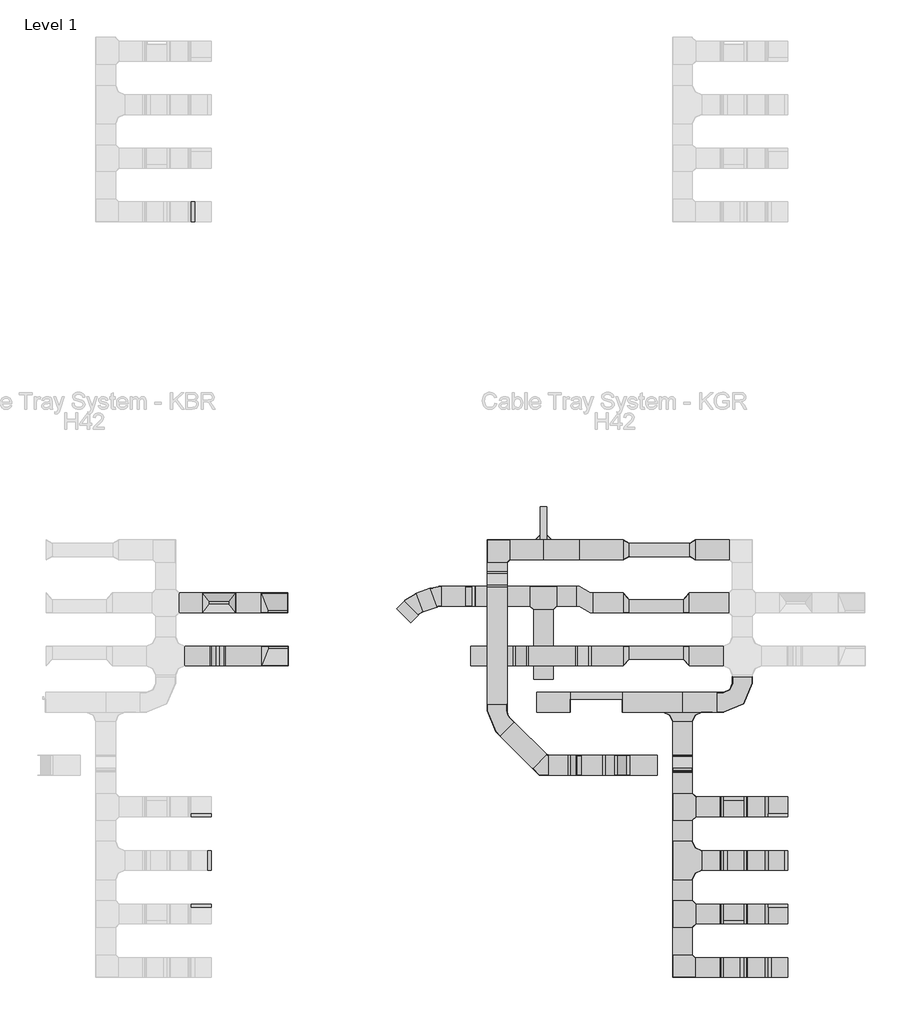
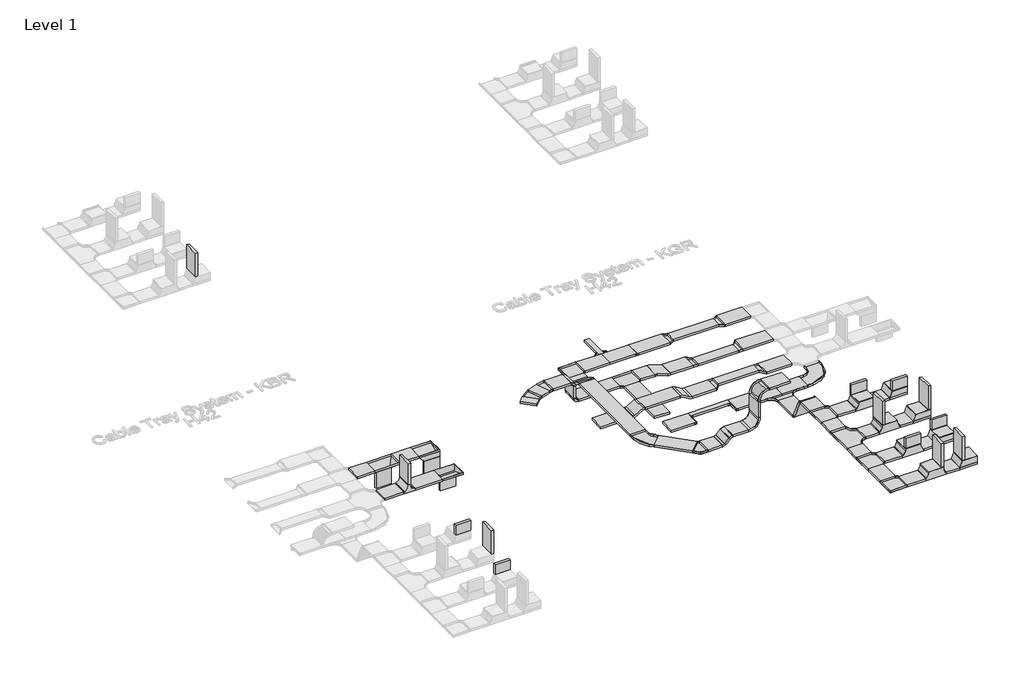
# One storey, part 5 of 106: 67 cable carrier segments, 47 cable carrier fittings.
"""IFC4 building model written with IfcOpenShell, lengths in millimetres."""

from ifc_helpers import new_model, si_unit, frame, origin, place, context, project, spatial, polyline, outline, extrude, transform, mapped, element, save
from components import cable_carrier_fitting_2f03b0e3, cable_carrier_fitting_e5c8e40d, cable_carrier_fitting_89415aa4, cable_carrier_fitting_efa56db2, cable_carrier_fitting_fd90c8b5, cable_carrier_fitting_9cc64f74, cable_carrier_fitting_881c8fdb, cable_carrier_fitting_302010ec, cable_carrier_fitting_bee8c25e, cable_carrier_fitting_2b67af39, cable_carrier_fitting_400b97e6, cable_carrier_fitting_736d034b, cable_carrier_fitting_af289c29, cable_carrier_fitting_3ff81d9b, cable_carrier_fitting_7d5806c9, cable_carrier_fitting_0ce080ce, cable_carrier_fitting_1724e2f5, cable_carrier_fitting_0e05e12f, cable_carrier_fitting_aa4403b1, cable_carrier_fitting_df0feb0d, cable_carrier_fitting_b8cc1d00, cable_carrier_fitting_19ef2403, cable_carrier_fitting_0fee3a18, cable_carrier_fitting_e93d4d17, cable_carrier_fitting_f62230c1, cable_carrier_fitting_68112528, cable_carrier_fitting_94ef316f, cable_carrier_fitting_d4aa8912, cable_carrier_fitting_70c157f5, cable_carrier_fitting_f138ef00, cable_carrier_fitting_b296faec, cable_carrier_fitting_717dd42d, cable_carrier_fitting_55953e98, cable_carrier_fitting_c1d9b0e5, rkj200_h42_1d64d163, rkj200_h42_0f858a6a

model = new_model("IFC4")

# Units and contexts
model_context = context("Model", 3, world=origin())
ifc_project = project(units=[si_unit("LENGTHUNIT", "METRE", prefix="MILLI")], contexts=[model_context])

# Site, building, storey
site = spatial("IfcSite", under=ifc_project)
building = spatial("IfcBuilding", under=site)
storey = spatial("IfcBuildingStorey", under=building, Name="Level 1", Elevation=0.0)

# Cable carrier fittings
placement = place(None, origin())
cable_carrier_fitting_shape = cable_carrier_fitting_2f03b0e3(model_context)
element("IfcCableCarrierFitting", 1, ObjectType="BAKS_Vertical tee symetrical : TRSNJ_H42", at=placement, inside=storey, context=model_context, shape_type="MappedRepresentation", body=[
    mapped(cable_carrier_fitting_shape, transform((-15558.1670538, 56380.8714214, 0.0), x_axis=(1.0, 0.0, 0.0), y_axis=(0.0, -1.0, 0.0), z_axis=(0.0, 0.0, -1.0))),
])
cable_carrier_fitting_2_shape = cable_carrier_fitting_e5c8e40d(model_context)
element("IfcCableCarrierFitting", 2, ObjectType="BAKS_SUB_Corner connector : LRJ_H42", at=placement, inside=storey, context=model_context, shape_type="MappedRepresentation", body=[
    mapped(cable_carrier_fitting_2_shape, transform((-10693.6670538, 58130.8714214, -21.0), x_axis=(-1.0, 0.0, 0.0), y_axis=(0.0, -1.0, 0.0), z_axis=(0.0, 0.0, 1.0))),
])
element("IfcCableCarrierFitting", 3, ObjectType="BAKS_SUB_Corner connector : LRJ_H42", at=placement, inside=storey, context=model_context, shape_type="MappedRepresentation", body=[
    mapped(cable_carrier_fitting_2_shape, transform((-10593.6670538, 58130.8714214, -21.0), x_axis=(0.0, 1.0, 0.0), y_axis=(-1.0, 0.0, 0.0), z_axis=(0.0, 0.0, 1.0))),
])
cable_carrier_fitting_3_shape = cable_carrier_fitting_89415aa4(model_context)
element("IfcCableCarrierFitting", 4, ObjectType="BAKS_Horizontal bend : KKBL/KKMBL_H42", at=placement, inside=storey, context=model_context, shape_type="MappedRepresentation", body=[
    mapped(cable_carrier_fitting_3_shape, transform((-10643.6670538, 54731.3714214, 100.0), x_axis=(0.7071067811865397, -0.7071067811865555, 0.0), y_axis=(0.7071067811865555, 0.7071067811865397, 0.0), z_axis=(0.0, 0.0, 1.0))),
])
cable_carrier_fitting_4_shape = cable_carrier_fitting_efa56db2(model_context)
element("IfcCableCarrierFitting", 5, ObjectType="BAKS_Horizontal bypass : OPZNJ_H42", at=placement, inside=storey, context=model_context, shape_type="MappedRepresentation", body=[
    mapped(cable_carrier_fitting_4_shape, transform((-10022.1670538, 57180.8714214, 0.0), x_axis=(-1.0, 0.0, 0.0), y_axis=(0.0, 1.0, 0.0), z_axis=(0.0, 0.0, -1.0))),
])
cable_carrier_fitting_5_shape = cable_carrier_fitting_fd90c8b5(model_context)
element("IfcCableCarrierFitting", 6, ObjectType="BAKS_Horizontal tee radius : TKPJ_H42", at=placement, inside=storey, context=model_context, shape_type="MappedRepresentation", body=[
    mapped(cable_carrier_fitting_5_shape, transform((-8546.1670538, 53296.5802898, 432.5277378), x_axis=(0.0, 1.0, 0.0), y_axis=(-1.0, 0.0, 0.0), z_axis=(0.0, 0.0, 1.0))),
])
cable_carrier_fitting_6_shape = cable_carrier_fitting_9cc64f74(model_context)
element("IfcCableCarrierFitting", 7, ObjectType="BAKS_Horizontal tee : TKL_H42", at=placement, inside=storey, context=model_context, shape_type="MappedRepresentation", body=[
    mapped(cable_carrier_fitting_6_shape, transform((-10643.6670538, 57280.8714214, 0.0), x_axis=(1.0, 0.0, 0.0), y_axis=(0.0, 1.0, 0.0), z_axis=(0.0, 0.0, 1.0))),
])
element("IfcCableCarrierFitting", 8, ObjectType="BAKS_Horizontal tee : TKL_H42", at=placement, inside=storey, context=model_context, shape_type="MappedRepresentation", body=[
    mapped(cable_carrier_fitting_6_shape, transform((-8546.1670538, 52489.2974728, 432.5277378), x_axis=(0.0, 1.0, 0.0), y_axis=(-1.0, 0.0, 0.0), z_axis=(0.0, 0.0, 1.0))),
])
element("IfcCableCarrierFitting", 9, ObjectType="BAKS_Horizontal tee : TKL_H42", at=placement, inside=storey, context=model_context, shape_type="MappedRepresentation", body=[
    mapped(cable_carrier_fitting_6_shape, transform((-8546.1670538, 54103.8631068, 432.5277378), x_axis=(0.0, 1.0, 0.0), y_axis=(-1.0, 0.0, 0.0), z_axis=(0.0, 0.0, 1.0))),
])
cable_carrier_fitting_7_shape = cable_carrier_fitting_881c8fdb(model_context)
element("IfcCableCarrierFitting", 10, ObjectType="BAKS_Universal elbow : KRUMJ_H42", at=placement, inside=storey, context=model_context, shape_type="MappedRepresentation", body=[
    mapped(cable_carrier_fitting_7_shape, transform((-7306.1670538, 53296.5802898, 432.5277378), x_axis=(1.0, 0.0, 0.0), y_axis=(0.0, 1.0, 0.0), z_axis=(0.0, 0.0, 1.0))),
])
cable_carrier_fitting_8_shape = cable_carrier_fitting_302010ec(model_context)
element("IfcCableCarrierFitting", 11, ObjectType="BAKS_Universal tee : TRUNJ_H42", at=placement, inside=storey, context=model_context, shape_type="MappedRepresentation", body=[
    mapped(cable_carrier_fitting_8_shape, transform((-7773.5199976, 53296.5802898, 432.5277378), x_axis=(-1.0, 0.0, 0.0), y_axis=(0.0, -1.0, 0.0), z_axis=(0.0, 0.0, 1.0))),
])
cable_carrier_fitting_9_shape = cable_carrier_fitting_bee8c25e(model_context)
element("IfcCableCarrierFitting", 12, ObjectType="BAKS_Vertical bend adjustable : LLL/LLJ_H42", at=placement, inside=storey, context=model_context, shape_type="MappedRepresentation", body=[
    mapped(cable_carrier_fitting_9_shape, transform((-9546.2659001, 54731.3714214, 237.4011537), x_axis=(1.0, 0.0, 0.0), y_axis=(0.0, 0.0, 1.0), z_axis=(0.0, -1.0, 0.0))),
])
element("IfcCableCarrierFitting", 13, ObjectType="BAKS_Vertical bend adjustable : LLL/LLJ_H42", at=placement, inside=storey, context=model_context, shape_type="MappedRepresentation", body=[
    mapped(cable_carrier_fitting_9_shape, transform((-9546.2659001, 54731.3714214, 977.4011537), x_axis=(0.0, 0.0, 1.0), y_axis=(1.0, 0.0, 0.0), z_axis=(0.0, 1.0, 0.0))),
])
cable_carrier_fitting_10_shape = cable_carrier_fitting_2b67af39(model_context)
element("IfcCableCarrierFitting", 14, ObjectType="BAKS_Vertical bypass : OPNNJ_H42", at=placement, inside=storey, context=model_context, shape_type="MappedRepresentation", body=[
    mapped(cable_carrier_fitting_10_shape, transform((-10986.6670538, 56380.8714214, 100.0), x_axis=(-1.0, 0.0, 0.0), y_axis=(0.0, -1.0, 0.0), z_axis=(0.0, 0.0, 1.0))),
])
cable_carrier_fitting_11_shape = cable_carrier_fitting_400b97e6(model_context)
element("IfcCableCarrierFitting", 15, ObjectType="BAKS_Vertical elbow left : KRLBJ_H42", at=placement, inside=storey, context=model_context, shape_type="MappedRepresentation", body=[
    mapped(cable_carrier_fitting_11_shape, transform((-14908.1670538, 57180.8714214, 0.0), x_axis=(1.0, 0.0, 0.0), y_axis=(0.0, 1.0, 0.0), z_axis=(0.0, 0.0, 1.0))),
])
cable_carrier_fitting_12_shape = cable_carrier_fitting_736d034b(model_context)
element("IfcCableCarrierFitting", 16, ObjectType="BAKS_Vertical tee lengthwise : TRBJ_H42", at=placement, inside=storey, context=model_context, shape_type="MappedRepresentation", body=[
    mapped(cable_carrier_fitting_12_shape, transform((-15538.1670538, 57180.8714214, 0.0), x_axis=(-1.0, 0.0, 0.0), y_axis=(0.0, -1.0, 0.0), z_axis=(0.0, 0.0, 1.0))),
])
cable_carrier_fitting_13_shape = cable_carrier_fitting_af289c29(model_context)
element("IfcCableCarrierFitting", 17, ObjectType="BAKS_Articulated_connector : LGJ_H42", at=placement, inside=storey, context=model_context, shape_type="MappedRepresentation", body=[
    mapped(cable_carrier_fitting_13_shape, transform((-8546.1670538, 54858.7056523, 0.0), x_axis=(0.0, -1.0, 0.0), y_axis=(0.0, 0.0, 1.0), z_axis=(-1.0, 0.0, 0.0))),
])
element("IfcCableCarrierFitting", 18, ObjectType="BAKS_Articulated_connector : LGJ_H42", at=placement, inside=storey, context=model_context, shape_type="MappedRepresentation", body=[
    mapped(cable_carrier_fitting_13_shape, transform((-8546.1670538, 54657.0146558, 432.5277378), x_axis=(0.0, -0.42261826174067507, 0.9063077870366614), y_axis=(0.0, -0.9063077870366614, -0.42261826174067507), z_axis=(1.0, 0.0, 0.0))),
])
cable_carrier_fitting_14_shape = cable_carrier_fitting_3ff81d9b(model_context)
element("IfcCableCarrierFitting", 19, ObjectType="BAKS_Universal tee : TRUNJ_H42", at=placement, inside=storey, context=model_context, shape_type="MappedRepresentation", body=[
    mapped(cable_carrier_fitting_14_shape, transform((-7773.5199976, 54103.8631068, 432.5277378), x_axis=(-1.0, 0.0, 0.0), y_axis=(0.0, -1.0, 0.0), z_axis=(0.0, 0.0, 1.0))),
])
cable_carrier_fitting_15_shape = cable_carrier_fitting_7d5806c9(model_context)
element("IfcCableCarrierFitting", 20, ObjectType="BAKS_Universal tee : TRUNJ_H42", at=placement, inside=storey, context=model_context, shape_type="MappedRepresentation", body=[
    mapped(cable_carrier_fitting_15_shape, transform((-7773.5199976, 52489.2974728, 432.5277378), x_axis=(-1.0, 0.0, 0.0), y_axis=(0.0, -1.0, 0.0), z_axis=(0.0, 0.0, 1.0))),
])
cable_carrier_fitting_16_shape = cable_carrier_fitting_0ce080ce(model_context)
element("IfcCableCarrierFitting", 21, ObjectType="BAKS_Universal tee : TRUNJ_H42", at=placement, inside=storey, context=model_context, shape_type="MappedRepresentation", body=[
    mapped(cable_carrier_fitting_16_shape, transform((-7773.5199976, 51682.0146558, 432.5277378), x_axis=(-1.0, 0.0, 0.0), y_axis=(0.0, -1.0, 0.0), z_axis=(0.0, 0.0, 1.0))),
])
cable_carrier_fitting_17_shape = cable_carrier_fitting_1724e2f5(model_context)
element("IfcCableCarrierFitting", 22, ObjectType="BAKS_Vertical bypass : OPNNJ_H42", at=placement, inside=storey, context=model_context, shape_type="MappedRepresentation", body=[
    mapped(cable_carrier_fitting_17_shape, transform((-10043.6670538, 56380.8714214, 0.0), x_axis=(-1.0, 0.0, 0.0), y_axis=(0.0, -1.0, 0.0), z_axis=(0.0, 0.0, 1.0))),
])
element("IfcCableCarrierFitting", 23, ObjectType="BAKS_Vertical bypass : OPNNJ_H42", at=placement, inside=storey, context=model_context, shape_type="MappedRepresentation", body=[
    mapped(cable_carrier_fitting_17_shape, transform((-11343.1670538, 57539.3714214, 0.0), x_axis=(0.0, -1.0, 0.0), y_axis=(1.0, 0.0, 0.0), z_axis=(0.0, 0.0, 1.0))),
])
cable_carrier_fitting_18_shape = cable_carrier_fitting_0e05e12f(model_context)
element("IfcCableCarrierFitting", 24, ObjectType="BAKS_Universal elbow : KRUMJ_H42", at=placement, inside=storey, context=model_context, shape_type="MappedRepresentation", body=[
    mapped(cable_carrier_fitting_18_shape, transform((-7306.1670538, 54103.8631068, 432.5277378), x_axis=(1.0, 0.0, 0.0), y_axis=(0.0, 1.0, 0.0), z_axis=(0.0, 0.0, 1.0))),
])
cable_carrier_fitting_19_shape = cable_carrier_fitting_aa4403b1(model_context)
element("IfcCableCarrierFitting", 25, ObjectType="BAKS_Universal elbow : KRUMJ_H42", at=placement, inside=storey, context=model_context, shape_type="MappedRepresentation", body=[
    mapped(cable_carrier_fitting_19_shape, transform((-7306.1670538, 52489.2974728, 432.5277378), x_axis=(1.0, 0.0, 0.0), y_axis=(0.0, 1.0, 0.0), z_axis=(0.0, 0.0, 1.0))),
])
cable_carrier_fitting_20_shape = cable_carrier_fitting_df0feb0d(model_context)
element("IfcCableCarrierFitting", 26, ObjectType="BAKS_Universal elbow : KRUMJ_H42", at=placement, inside=storey, context=model_context, shape_type="MappedRepresentation", body=[
    mapped(cable_carrier_fitting_20_shape, transform((-7306.1670538, 51682.0146558, 432.5277378), x_axis=(1.0, 0.0, 0.0), y_axis=(0.0, 1.0, 0.0), z_axis=(0.0, 0.0, 1.0))),
])
cable_carrier_fitting_21_shape = cable_carrier_fitting_b8cc1d00(model_context)
element("IfcCableCarrierFitting", 27, ObjectType="BAKS_Vertical elbow right : KRPJ_H42", at=placement, inside=storey, context=model_context, shape_type="MappedRepresentation", body=[
    mapped(cable_carrier_fitting_21_shape, transform((-14902.1670538, 56380.8714214, 0.0), x_axis=(1.0, 0.0, 0.0), y_axis=(0.0, 1.0, 0.0), z_axis=(0.0, 0.0, 1.0))),
])
cable_carrier_fitting_22_shape = cable_carrier_fitting_19ef2403(model_context)
element("IfcCableCarrierFitting", 28, ObjectType="BAKS_Adjustable bend : KKRPJ_H42", at=placement, inside=storey, context=model_context, shape_type="MappedRepresentation", body=[
    mapped(cable_carrier_fitting_22_shape, transform((-12581.9563973, 57157.7441698, 400.0), x_axis=(-0.9396926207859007, -0.34202014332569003, 0.0), y_axis=(0.34202014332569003, -0.9396926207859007, 0.0), z_axis=(0.0, 0.0, 1.0))),
])
cable_carrier_fitting_23_shape = cable_carrier_fitting_0fee3a18(model_context)
element("IfcCableCarrierFitting", 29, ObjectType="BAKS_Adjustable bend : KKRPJ_H42", at=placement, inside=storey, context=model_context, shape_type="MappedRepresentation", body=[
    mapped(cable_carrier_fitting_23_shape, transform((-12243.6670538, 57280.8714214, 400.0), x_axis=(-1.0, 0.0, 0.0), y_axis=(0.0, -1.0, 0.0), z_axis=(0.0, 0.0, 1.0))),
])
cable_carrier_fitting_24_shape = cable_carrier_fitting_e93d4d17(model_context)
element("IfcCableCarrierFitting", 30, ObjectType="BAKS_Plate connector : LPMU_H42", at=placement, inside=storey, context=model_context, shape_type="MappedRepresentation", body=[
    mapped(cable_carrier_fitting_24_shape, transform((-10103.1670538, 57980.8714214, 0.0), x_axis=(1.0, 0.0, 0.0), y_axis=(0.0, 1.0, 0.0), z_axis=(0.0, 0.0, 1.0))),
])
cable_carrier_fitting_25_shape = cable_carrier_fitting_f62230c1(model_context)
element("IfcCableCarrierFitting", 31, ObjectType="BAKS_Vertical bend LU : LLJ_H42", at=placement, inside=storey, context=model_context, shape_type="MappedRepresentation", body=[
    mapped(cable_carrier_fitting_25_shape, transform((-11743.6670538, 57280.8714214, 0.0), x_axis=(-1.0, 0.0, 0.0), y_axis=(0.0, 0.0, 1.0), z_axis=(0.0, 1.0, 0.0))),
])
element("IfcCableCarrierFitting", 32, ObjectType="BAKS_Vertical bend LU : LLJ_H42", at=placement, inside=storey, context=model_context, shape_type="MappedRepresentation", body=[
    mapped(cable_carrier_fitting_25_shape, transform((-11743.6670538, 57280.8714214, 400.0), x_axis=(0.0, 0.0, 1.0), y_axis=(-1.0, 0.0, 0.0), z_axis=(0.0, -1.0, 0.0))),
])
cable_carrier_fitting_26_shape = cable_carrier_fitting_68112528(model_context)
element("IfcCableCarrierFitting", 33, ObjectType="BAKS_Vertical bend LU : LLJ_H42", at=placement, inside=storey, context=model_context, shape_type="MappedRepresentation", body=[
    mapped(cable_carrier_fitting_26_shape, transform((-10243.6670538, 54731.3714214, 100.0), x_axis=(1.0, 0.0, 0.0), y_axis=(0.0, 0.0, 1.0), z_axis=(0.0, -1.0, 0.0))),
])
element("IfcCableCarrierFitting", 34, ObjectType="BAKS_Vertical bend LU : LLJ_H42", at=placement, inside=storey, context=model_context, shape_type="MappedRepresentation", body=[
    mapped(cable_carrier_fitting_26_shape, transform((-10106.2659001, 54731.3714214, 237.4011537), x_axis=(0.7071067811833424, 0.0, 0.7071067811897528), y_axis=(0.7071067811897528, 0.0, -0.7071067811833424), z_axis=(0.0, 1.0, 0.0))),
])
cable_carrier_fitting_27_shape = cable_carrier_fitting_94ef316f(model_context)
element("IfcCableCarrierFitting", 35, ObjectType="BAKS_Reducer : RK(S/L/P)L_H42", at=placement, inside=storey, context=model_context, shape_type="MappedRepresentation", body=[
    mapped(cable_carrier_fitting_27_shape, transform((-9443.1670538, 57980.8714214, 0.0), x_axis=(1.0, 0.0, 0.0), y_axis=(0.0, 1.0, 0.0), z_axis=(0.0, 0.0, 1.0))),
])
cable_carrier_fitting_28_shape = cable_carrier_fitting_d4aa8912(model_context)
element("IfcCableCarrierFitting", 36, ObjectType="BAKS_Reducer : RK(S/L/P)L_H42", at=placement, inside=storey, context=model_context, shape_type="MappedRepresentation", body=[
    mapped(cable_carrier_fitting_28_shape, transform((-8443.1670538, 57980.8714214, 0.0), x_axis=(1.0, 0.0, 0.0), y_axis=(0.0, 1.0, 0.0), z_axis=(0.0, 0.0, 1.0))),
])
cable_carrier_fitting_29_shape = cable_carrier_fitting_70c157f5(model_context)
element("IfcCableCarrierFitting", 37, ObjectType="BAKS_Reducer : RK(S/L/P)L_H42", at=placement, inside=storey, context=model_context, shape_type="MappedRepresentation", body=[
    mapped(cable_carrier_fitting_29_shape, transform((-9443.1670538, 57180.8714214, 0.0), x_axis=(1.0, 0.0, 0.0), y_axis=(0.0, 1.0, 0.0), z_axis=(0.0, 0.0, 1.0))),
])
element("IfcCableCarrierFitting", 38, ObjectType="BAKS_Reducer : RK(S/L/P)L_H42", at=placement, inside=storey, context=model_context, shape_type="MappedRepresentation", body=[
    mapped(cable_carrier_fitting_29_shape, transform((-8443.1670538, 56380.8714214, 0.0), x_axis=(-1.0, 0.0, 0.0), y_axis=(0.0, -1.0, 0.0), z_axis=(0.0, 0.0, 1.0))),
])
cable_carrier_fitting_30_shape = cable_carrier_fitting_f138ef00(model_context)
element("IfcCableCarrierFitting", 39, ObjectType="BAKS_Reducer : RK(S/L/P)L_H42", at=placement, inside=storey, context=model_context, shape_type="MappedRepresentation", body=[
    mapped(cable_carrier_fitting_30_shape, transform((-8443.1670538, 57180.8714214, 0.0), x_axis=(-1.0, 0.0, 0.0), y_axis=(0.0, -1.0, 0.0), z_axis=(0.0, 0.0, 1.0))),
])
element("IfcCableCarrierFitting", 40, ObjectType="BAKS_Reducer : RK(S/L/P)L_H42", at=placement, inside=storey, context=model_context, shape_type="MappedRepresentation", body=[
    mapped(cable_carrier_fitting_30_shape, transform((-9443.1670538, 56380.8714214, 0.0), x_axis=(1.0, 0.0, 0.0), y_axis=(0.0, 1.0, 0.0), z_axis=(0.0, 0.0, 1.0))),
])
cable_carrier_fitting_31_shape = cable_carrier_fitting_b296faec(model_context)
element("IfcCableCarrierFitting", 41, ObjectType="BAKS_Horizontal addon tee : TKDJ_H42", at=placement, inside=storey, context=model_context, shape_type="MappedRepresentation", body=[
    mapped(cable_carrier_fitting_31_shape, transform((-8546.1670538, 55680.8714214, 0.0), x_axis=(1.0, 0.0, 0.0), y_axis=(0.0, 1.0, 0.0), z_axis=(0.0, 0.0, 1.0))),
])
cable_carrier_fitting_32_shape = cable_carrier_fitting_717dd42d(model_context)
element("IfcCableCarrierFitting", 42, ObjectType="BAKS_Horizontal bend : KKBL/KKMBL_H42", at=placement, inside=storey, context=model_context, shape_type="MappedRepresentation", body=[
    mapped(cable_carrier_fitting_32_shape, transform((-11343.1670538, 57980.8714214, 0.0), x_axis=(-1.0, 0.0, 0.0), y_axis=(0.0, -1.0, 0.0), z_axis=(0.0, 0.0, 1.0))),
])
element("IfcCableCarrierFitting", 43, ObjectType="BAKS_Horizontal bend : KKBL/KKMBL_H42", at=placement, inside=storey, context=model_context, shape_type="MappedRepresentation", body=[
    mapped(cable_carrier_fitting_32_shape, transform((-8546.1670538, 51682.0146558, 432.5277378), x_axis=(0.0, -1.0, 0.0), y_axis=(1.0, 0.0, 0.0), z_axis=(0.0, 0.0, 1.0))),
])
cable_carrier_fitting_33_shape = cable_carrier_fitting_55953e98(model_context)
element("IfcCableCarrierFitting", 44, ObjectType="BAKS_Horizontal bend radius : KKPJ/KKMPJ_H42", at=placement, inside=storey, context=model_context, shape_type="MappedRepresentation", body=[
    mapped(cable_carrier_fitting_33_shape, transform((-11343.1670538, 55430.8714214, 100.0), x_axis=(0.0, -1.0, 0.0), y_axis=(1.0, 0.0, 0.0), z_axis=(0.0, 0.0, 1.0))),
])
cable_carrier_fitting_34_shape = cable_carrier_fitting_c1d9b0e5(model_context)
element("IfcCableCarrierFitting", 45, ObjectType="BAKS_Horizontal bend radius : KKPJ/KKMPJ_H42", at=placement, inside=storey, context=model_context, shape_type="MappedRepresentation", body=[
    mapped(cable_carrier_fitting_34_shape, transform((-7643.1670538, 55680.8714214, 0.0), x_axis=(1.0, 0.0, 0.0), y_axis=(0.0, 1.0, 0.0), z_axis=(0.0, 0.0, 1.0))),
])
rkj200_h42_shape = rkj200_h42_1d64d163(model_context)
element("IfcCableCarrierFitting", 46, ObjectType="BAKS_SUB_Reduction angular : RKJ200_H42", at=placement, inside=storey, context=model_context, shape_type="MappedRepresentation", body=[
    mapped(rkj200_h42_shape, transform((-10243.1670538, 55530.8714214, -21.0), x_axis=(1.0, 0.0, 0.0), y_axis=(0.0, 1.0, 0.0), z_axis=(0.0, 0.0, 1.0))),
])
rkj200_h42_2_shape = rkj200_h42_0f858a6a(model_context)
element("IfcCableCarrierFitting", 47, ObjectType="BAKS_SUB_Reduction angular : RKJ200_H42", at=placement, inside=storey, context=model_context, shape_type="MappedRepresentation", body=[
    mapped(rkj200_h42_2_shape, transform((-9453.1670538, 55530.8714214, -21.0), x_axis=(-1.0, 0.0, 0.0), y_axis=(0.0, -1.0, 0.0), z_axis=(0.0, 0.0, 1.0))),
])

# Cable carrier segments
element("IfcCableCarrierSegment", 48, ObjectType="BAKS - Cable tray H42 (KBR)", at=placement, inside=storey, context=model_context, shape_type="SweptSolid", body=[
    extrude(outline(polyline([(-16138.1670538, 57030.8714214), (-16138.1670538, 57330.8714214), (-15788.1670538, 57330.8714214), (-15788.1670538, 57030.8714214), (-16138.1670538, 57030.8714214)])), frame((0.0, 0.0, -21.0), z_axis=(0.0, 0.0, 1.0), x_axis=(1.0, 0.0, 0.0)), (0.0, 0.0, 1.0), 42.0),
])
element("IfcCableCarrierSegment", 49, ObjectType="BAKS - Cable tray H42 (KBR)", at=placement, inside=storey, context=model_context, shape_type="SweptSolid", body=[
    extrude(outline(polyline([(-16052.1670538, 56230.8714214), (-16052.1670538, 56530.8714214), (-15674.1670538, 56530.8714214), (-15674.1670538, 56230.8714214), (-16052.1670538, 56230.8714214)])), frame((0.0, 0.0, -21.0), z_axis=(0.0, 0.0, 1.0), x_axis=(1.0, 0.0, 0.0)), (0.0, 0.0, 1.0), 42.0),
])
element("IfcCableCarrierSegment", 50, ObjectType="BAKS - Cable tray H42 (KBR)", at=placement, inside=storey, context=model_context, shape_type="SweptSolid", body=[
    extrude(outline(polyline([(-15442.1670538, 56230.8714214), (-15442.1670538, 56530.8714214), (-14902.1670538, 56530.8714214), (-14902.1670538, 56230.8714214), (-15442.1670538, 56230.8714214)])), frame((0.0, 0.0, -21.0), z_axis=(0.0, 0.0, 1.0), x_axis=(1.0, 0.0, 0.0)), (0.0, 0.0, 1.0), 42.0),
])
element("IfcCableCarrierSegment", 51, ObjectType="BAKS - Cable tray H42 (KBR)", at=placement, inside=storey, context=model_context, shape_type="SweptSolid", body=[
    extrude(outline(polyline([(-15537.1670538, 56230.8714214), (-15579.1670538, 56230.8714214), (-15579.1670538, 56530.8714214), (-15537.1670538, 56530.8714214), (-15537.1670538, 56230.8714214)])), frame((0.0, 0.0, 136.0), z_axis=(0.0, 0.0, 1.0), x_axis=(1.0, 0.0, 0.0)), (0.0, 0.0, 1.0), 449.0),
])
element("IfcCableCarrierSegment", 52, ObjectType="BAKS - Cable tray H42 (KGR)", at=placement, inside=storey, context=model_context, shape_type="SweptSolid", body=[
    extrude(outline(polyline([(-15688.1670538, 57201.8714214), (-15388.1670538, 57201.8714214), (-15388.1670538, 57159.8714214), (-15688.1670538, 57159.8714214), (-15688.1670538, 57201.8714214)])), frame((0.0, 0.0, -464.0), z_axis=(0.0, 0.0, 1.0), x_axis=(1.0, 0.0, 0.0)), (0.0, 0.0, 1.0), 343.0),
])
element("IfcCableCarrierSegment", 53, ObjectType="BAKS - Cable tray H42 (KBR)", at=placement, inside=storey, context=model_context, shape_type="SweptSolid", body=[
    extrude(outline(polyline([(-15288.1670538, 57030.8714214), (-15288.1670538, 57330.8714214), (-14908.1670538, 57330.8714214), (-14908.1670538, 57030.8714214), (-15288.1670538, 57030.8714214)])), frame((0.0, 0.0, -21.0), z_axis=(0.0, 0.0, 1.0), x_axis=(1.0, 0.0, 0.0)), (0.0, 0.0, 1.0), 42.0),
])
element("IfcCableCarrierSegment", 54, ObjectType="BAKS - Cable tray H42 (KGR)", at=placement, inside=storey, context=model_context, shape_type="SweptSolid", body=[
    extrude(outline(polyline([(-14498.1670538, 57030.8714214), (-14798.1670538, 57030.8714214), (-14798.1670538, 57072.8714214), (-14498.1670538, 57072.8714214), (-14498.1670538, 57030.8714214)])), frame((0.0, 0.0, -464.0), z_axis=(0.0, 0.0, 1.0), x_axis=(1.0, 0.0, 0.0)), (0.0, 0.0, 1.0), 343.0),
])
element("IfcCableCarrierSegment", 55, ObjectType="BAKS - Cable tray H42 (KGR)", at=placement, inside=storey, context=model_context, shape_type="SweptSolid", body=[
    extrude(outline(polyline([(-14492.1670538, 56488.8714214), (-14792.1670538, 56488.8714214), (-14792.1670538, 56530.8714214), (-14492.1670538, 56530.8714214), (-14492.1670538, 56488.8714214)])), frame((0.0, 0.0, -421.0), z_axis=(0.0, 0.0, 1.0), x_axis=(1.0, 0.0, 0.0)), (0.0, 0.0, 1.0), 300.0),
])
element("IfcCableCarrierSegment", 56, ObjectType="BAKS - Cable tray H42 (KGR)", at=placement, inside=storey, context=model_context, shape_type="SweptSolid", body=[
    extrude(outline(polyline([(-10102.1670538, 57830.8714214), (-10102.1670538, 58130.8714214), (-9443.1670538, 58130.8714214), (-9443.1670538, 57830.8714214), (-10102.1670538, 57830.8714214)])), frame((0.0, 0.0, -21.0), z_axis=(0.0, 0.0, 1.0), x_axis=(1.0, 0.0, 0.0)), (0.0, 0.0, 1.0), 42.0),
])
element("IfcCableCarrierSegment", 57, ObjectType="BAKS - Cable tray H42 (KGR)", at=placement, inside=storey, context=model_context, shape_type="SweptSolid", body=[
    extrude(outline(polyline([(-9348.1670538, 57880.8714214), (-9348.1670538, 58080.8714214), (-8443.1670538, 58080.8714214), (-8443.1670538, 57880.8714214), (-9348.1670538, 57880.8714214)])), frame((0.0, 0.0, -21.0), z_axis=(0.0, 0.0, 1.0), x_axis=(1.0, 0.0, 0.0)), (0.0, 0.0, 1.0), 42.0),
])
element("IfcCableCarrierSegment", 58, ObjectType="BAKS - Cable tray H42 (KGR)", at=placement, inside=storey, context=model_context, shape_type="SweptSolid", body=[
    extrude(outline(polyline([(-8348.1670538, 57830.8714214), (-8348.1670538, 58130.8714214), (-7839.1670538, 58130.8714214), (-7839.1670538, 57830.8714214), (-8348.1670538, 57830.8714214)])), frame((0.0, 0.0, -21.0), z_axis=(0.0, 0.0, 1.0), x_axis=(1.0, 0.0, 0.0)), (0.0, 0.0, 1.0), 42.0),
])
element("IfcCableCarrierSegment", 59, ObjectType="BAKS - Cable tray H42 (KGR)", at=placement, inside=storey, context=model_context, shape_type="SweptSolid", body=[
    extrude(outline(polyline([(-8538.1670538, 57230.8714214), (-8538.1670538, 57030.8714214), (-9348.1670538, 57030.8714214), (-9348.1670538, 57230.8714214), (-8538.1670538, 57230.8714214)])), frame((0.0, 0.0, -21.0), z_axis=(0.0, 0.0, 1.0), x_axis=(1.0, 0.0, 0.0)), (0.0, 0.0, 1.0), 42.0),
])
element("IfcCableCarrierSegment", 60, ObjectType="BAKS - Cable tray H42 (KGR)", at=placement, inside=storey, context=model_context, shape_type="SweptSolid", body=[
    extrude(outline(polyline([(-9900.6670538, 57030.8714214), (-9900.6670538, 57330.8714214), (-9443.1670538, 57330.8714214), (-9443.1670538, 57030.8714214), (-9900.6670538, 57030.8714214)])), frame((0.0, 0.0, -21.0), z_axis=(0.0, 0.0, 1.0), x_axis=(1.0, 0.0, 0.0)), (0.0, 0.0, 1.0), 42.0),
])
element("IfcCableCarrierSegment", 61, ObjectType="BAKS - Cable tray H42 (KGR)", at=placement, inside=storey, context=model_context, shape_type="SweptSolid", body=[
    extrude(outline(polyline([(-7848.1670538, 57330.8714214), (-7848.1670538, 57030.8714214), (-8443.1670538, 57030.8714214), (-8443.1670538, 57330.8714214), (-7848.1670538, 57330.8714214)])), frame((0.0, 0.0, -21.0), z_axis=(0.0, 0.0, 1.0), x_axis=(1.0, 0.0, 0.0)), (0.0, 0.0, 1.0), 42.0),
])
element("IfcCableCarrierSegment", 62, ObjectType="BAKS - Cable tray H42 (KGR)", at=placement, inside=storey, context=model_context, shape_type="SweptSolid", body=[
    extrude(outline(polyline([(-8538.1670538, 56530.8714214), (-8538.1670538, 56330.8714214), (-9348.1670538, 56330.8714214), (-9348.1670538, 56530.8714214), (-8538.1670538, 56530.8714214)])), frame((0.0, 0.0, -21.0), z_axis=(0.0, 0.0, 1.0), x_axis=(1.0, 0.0, 0.0)), (0.0, 0.0, 1.0), 42.0),
])
element("IfcCableCarrierSegment", 63, ObjectType="BAKS - Cable tray H42 (KGR)", at=placement, inside=storey, context=model_context, shape_type="SweptSolid", body=[
    extrude(outline(polyline([(-9922.1670538, 56230.8714214), (-9922.1670538, 56530.8714214), (-9443.1670538, 56530.8714214), (-9443.1670538, 56230.8714214), (-9922.1670538, 56230.8714214)])), frame((0.0, 0.0, -21.0), z_axis=(0.0, 0.0, 1.0), x_axis=(1.0, 0.0, 0.0)), (0.0, 0.0, 1.0), 42.0),
])
element("IfcCableCarrierSegment", 64, ObjectType="BAKS - Cable tray H42 (KGR)", at=placement, inside=storey, context=model_context, shape_type="SweptSolid", body=[
    extrude(outline(polyline([(-7934.1670538, 56530.8714214), (-7934.1670538, 56230.8714214), (-8443.1670538, 56230.8714214), (-8443.1670538, 56530.8714214), (-7934.1670538, 56530.8714214)])), frame((0.0, 0.0, -21.0), z_axis=(0.0, 0.0, 1.0), x_axis=(1.0, 0.0, 0.0)), (0.0, 0.0, 1.0), 42.0),
])
element("IfcCableCarrierSegment", 65, ObjectType="BAKS - Cable tray H42 (KGR)", at=placement, inside=storey, context=model_context, shape_type="SweptSolid", body=[
    extrude(outline(polyline([(-10848.6670538, 57430.8714214), (-10848.6670538, 57130.8714214), (-11667.6670538, 57130.8714214), (-11667.6670538, 57430.8714214), (-10848.6670538, 57430.8714214)])), frame((0.0, 0.0, -21.0), z_axis=(0.0, 0.0, 1.0), x_axis=(1.0, 0.0, 0.0)), (0.0, 0.0, 1.0), 42.0),
])
element("IfcCableCarrierSegment", 66, ObjectType="BAKS - Cable tray H42 (KGR)", at=placement, inside=storey, context=model_context, shape_type="SweptSolid", body=[
    extrude(outline(polyline([(-10165.1670538, 56530.8714214), (-10165.1670538, 56230.8714214), (-10865.1670538, 56230.8714214), (-10865.1670538, 56530.8714214), (-10165.1670538, 56530.8714214)])), frame((0.0, 0.0, 79.0), z_axis=(0.0, 0.0, 1.0), x_axis=(1.0, 0.0, 0.0)), (0.0, 0.0, 1.0), 42.0),
])
element("IfcCableCarrierSegment", 67, ObjectType="BAKS - Cable tray H42 (KGR)", at=placement, inside=storey, context=model_context, shape_type="SweptSolid", body=[
    extrude(outline(polyline([(-11493.1670538, 57784.8714214), (-11193.1670538, 57784.8714214), (-11193.1670538, 57660.8714214), (-11493.1670538, 57660.8714214), (-11493.1670538, 57784.8714214)])), frame((0.0, 0.0, -21.0), z_axis=(0.0, 0.0, 1.0), x_axis=(1.0, 0.0, 0.0)), (0.0, 0.0, 1.0), 42.0),
])
element("IfcCableCarrierSegment", 68, ObjectType="BAKS - Cable tray H42 (KGR)", at=placement, inside=storey, context=model_context, shape_type="SweptSolid", body=[
    extrude(outline(polyline([(-10793.6670538, 57075.8714214), (-10493.6670538, 57075.8714214), (-10493.6670538, 56030.8714214), (-10793.6670538, 56030.8714214), (-10793.6670538, 57075.8714214)])), frame((0.0, 0.0, -21.0), z_axis=(0.0, 0.0, 1.0), x_axis=(1.0, 0.0, 0.0)), (0.0, 0.0, 1.0), 42.0),
])
element("IfcCableCarrierSegment", 69, ObjectType="BAKS - Cable tray H42 (KGR)", at=placement, inside=storey, context=model_context, shape_type="SweptSolid", body=[
    extrude(outline(polyline([(-10143.6670538, 57430.8714214), (-10143.6670538, 57130.8714214), (-10438.6670538, 57130.8714214), (-10438.6670538, 57430.8714214), (-10143.6670538, 57430.8714214)])), frame((0.0, 0.0, -21.0), z_axis=(0.0, 0.0, 1.0), x_axis=(1.0, 0.0, 0.0)), (0.0, 0.0, 1.0), 42.0),
])
element("IfcCableCarrierSegment", 70, ObjectType="BAKS - Cable tray H42 (KGR)", at=placement, inside=storey, context=model_context, shape_type="SweptSolid", body=[
    extrude(outline(polyline([(-11108.1670538, 56530.8714214), (-11108.1670538, 56230.8714214), (-11743.6670538, 56230.8714214), (-11743.6670538, 56530.8714214), (-11108.1670538, 56530.8714214)])), frame((0.0, 0.0, -21.0), z_axis=(0.0, 0.0, 1.0), x_axis=(1.0, 0.0, 0.0)), (0.0, 0.0, 1.0), 42.0),
])
element("IfcCableCarrierSegment", 71, ObjectType="BAKS - Cable tray H42 (KGR)", at=placement, inside=storey, context=model_context, shape_type="SweptSolid", body=[
    extrude(outline(polyline([(-12177.5322294, 57130.8714214), (-12177.5322294, 57430.8714214), (-11819.6670538, 57430.8714214), (-11819.6670538, 57130.8714214), (-12177.5322294, 57130.8714214)])), frame((0.0, 0.0, 379.0), z_axis=(0.0, 0.0, 1.0), x_axis=(1.0, 0.0, 0.0)), (0.0, 0.0, 1.0), 42.0),
])
element("IfcCableCarrierSegment", 72, ObjectType="BAKS - Cable tray H42 (KGR)", at=placement, inside=storey, context=model_context, shape_type="SweptSolid", body=[
    extrude(outline(polyline([(-11764.6670538, 57430.8714214), (-11722.6670538, 57430.8714214), (-11722.6670538, 57130.8714214), (-11764.6670538, 57130.8714214), (-11764.6670538, 57430.8714214)])), frame((0.0, 0.0, 76.0), z_axis=(0.0, 0.0, 1.0), x_axis=(1.0, 0.0, 0.0)), (0.0, 0.0, 1.0), 248.0),
])
element("IfcCableCarrierSegment", 73, ObjectType="BAKS - Cable tray H42 (KGR)", at=placement, inside=storey, context=model_context, shape_type="SweptSolid", body=[
    extrude(outline(polyline([(-11193.1670538, 55650.9933545), (-11493.1670538, 55650.9933545), (-11493.1670538, 57417.8714214), (-11193.1670538, 57417.8714214), (-11193.1670538, 55650.9933545)])), frame((0.0, 0.0, 79.0), z_axis=(0.0, 0.0, 1.0), x_axis=(1.0, 0.0, 0.0)), (0.0, 0.0, 1.0), 42.0),
])
element("IfcCableCarrierSegment", 74, ObjectType="BAKS - Cable tray H42 (KGR)", at=placement, inside=storey, context=model_context, shape_type="SweptSolid", body=[
    extrude(outline(polyline([(-11293.5833594, 55169.1556926), (-11081.451325, 55381.287727), (-10595.422321, 54895.258723), (-10807.5543554, 54683.1266887), (-11293.5833594, 55169.1556926)])), frame((0.0, 0.0, 79.0), z_axis=(0.0, 0.0, 1.0), x_axis=(1.0, 0.0, 0.0)), (0.0, 0.0, 1.0), 42.0),
])
element("IfcCableCarrierSegment", 75, ObjectType="BAKS - Cable tray H42 (KGR)", at=placement, inside=storey, context=model_context, shape_type="SweptSolid", body=[
    extrude(outline(polyline([(-10561.8954091, 54581.3714214), (-10561.8954091, 54881.3714214), (-10278.0762167, 54881.3714214), (-10278.0762167, 54581.3714214), (-10561.8954091, 54581.3714214)])), frame((0.0, 0.0, 79.0), z_axis=(0.0, 0.0, 1.0), x_axis=(1.0, 0.0, 0.0)), (0.0, 0.0, 1.0), 42.0),
])
element("IfcCableCarrierSegment", 76, ObjectType="BAKS - Cable tray H42 (KGR)", at=placement, inside=storey, context=model_context, shape_type="SweptSolid", body=[
    extrude(outline(polyline([(21.0, 1.4628667), (-21.0, 1.4628667), (-21.0, 301.4628667), (21.0, 301.4628667), (21.0, 1.4628667)])), frame((-10219.3361013, 54579.9085547, 124.3309524), z_axis=(0.7071067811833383, 0.0, 0.7071067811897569), x_axis=(0.7071067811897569, 0.0, -0.7071067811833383)), (0.0, 0.0, 1.0), 125.4962492),
])
element("IfcCableCarrierSegment", 77, ObjectType="BAKS - Cable tray H42 (KGR)", at=placement, inside=storey, context=model_context, shape_type="SweptSolid", body=[
    extrude(outline(polyline([(-10071.8567371, 54581.3714214), (-10071.8567371, 54881.3714214), (-9757.2659001, 54881.3714214), (-9757.2659001, 54581.3714214), (-10071.8567371, 54581.3714214)])), frame((0.0, 0.0, 216.4011537), z_axis=(0.0, 0.0, 1.0), x_axis=(1.0, 0.0, 0.0)), (0.0, 0.0, 1.0), 42.0),
])
element("IfcCableCarrierSegment", 78, ObjectType="BAKS - Cable tray H42 (KGR)", at=placement, inside=storey, context=model_context, shape_type="SweptSolid", body=[
    extrude(outline(polyline([(-9525.2659001, 54581.3714214), (-9567.2659001, 54581.3714214), (-9567.2659001, 54881.3714214), (-9525.2659001, 54881.3714214), (-9525.2659001, 54581.3714214)])), frame((0.0, 0.0, 448.4011537), z_axis=(0.0, 0.0, 1.0), x_axis=(1.0, 0.0, 0.0)), (0.0, 0.0, 1.0), 318.0),
])
element("IfcCableCarrierSegment", 79, ObjectType="BAKS - Cable tray H42 (KGR)", at=placement, inside=storey, context=model_context, shape_type="SweptSolid", body=[
    extrude(outline(polyline([(-9335.2659001, 54581.3714214), (-9335.2659001, 54881.3714214), (-8926.2659001, 54881.3714214), (-8926.2659001, 54581.3714214), (-9335.2659001, 54581.3714214)])), frame((0.0, 0.0, 956.4011537), z_axis=(0.0, 0.0, 1.0), x_axis=(1.0, 0.0, 0.0)), (0.0, 0.0, 1.0), 42.0),
])
element("IfcCableCarrierSegment", 80, ObjectType="BAKS - Cable tray H42 (KGR)", at=placement, inside=storey, context=model_context, shape_type="SweptSolid", body=[
    extrude(outline(polyline([(-8546.7091451, 55830.8714214), (-8546.7091451, 55530.8714214), (-9452.1670538, 55530.8714214), (-9452.1670538, 55830.8714214), (-8546.7091451, 55830.8714214)])), frame((0.0, 0.0, -21.0), z_axis=(0.0, 0.0, 1.0), x_axis=(1.0, 0.0, 0.0)), (0.0, 0.0, 1.0), 42.0),
])
element("IfcCableCarrierSegment", 81, ObjectType="BAKS - Cable tray H42 (KGR)", at=placement, inside=storey, context=model_context, shape_type="SweptSolid", body=[
    extrude(outline(polyline([(-10743.1670538, 55530.8714214), (-10743.1670538, 55830.8714214), (-10243.1670538, 55830.8714214), (-10243.1670538, 55530.8714214), (-10743.1670538, 55530.8714214)])), frame((0.0, 0.0, -21.0), z_axis=(0.0, 0.0, 1.0), x_axis=(1.0, 0.0, 0.0)), (0.0, 0.0, 1.0), 42.0),
])
element("IfcCableCarrierSegment", 82, ObjectType="BAKS - Cable tray H42 (KGR)", at=placement, inside=storey, context=model_context, shape_type="SweptSolid", body=[
    extrude(outline(polyline([(-8033.1670538, 55830.8714214), (-8033.1670538, 55530.8714214), (-8545.6249624, 55530.8714214), (-8545.6249624, 55830.8714214), (-8033.1670538, 55830.8714214)])), frame((0.0, 0.0, -21.0), z_axis=(0.0, 0.0, 1.0), x_axis=(1.0, 0.0, 0.0)), (0.0, 0.0, 1.0), 42.0),
])
element("IfcCableCarrierSegment", 83, ObjectType="BAKS - Cable tray H42 (KGR)", at=placement, inside=storey, context=model_context, shape_type="SweptSolid", body=[
    extrude(outline(polyline([(-8696.1670538, 55384.8714214), (-8396.1670538, 55384.8714214), (-8396.1670538, 54885.269479), (-8696.1670538, 54885.269479), (-8696.1670538, 55384.8714214)])), frame((0.0, 0.0, -21.0), z_axis=(0.0, 0.0, 1.0), x_axis=(1.0, 0.0, 0.0)), (0.0, 0.0, 1.0), 42.0),
])
element("IfcCableCarrierSegment", 84, ObjectType="BAKS - Cable tray H42 (KGR)", at=placement, inside=storey, context=model_context, shape_type="SweptSolid", body=[
    extrude(outline(polyline([(-150.0, 130.4628667), (-150.0, 172.4628668), (150.0, 172.4628668), (150.0, 130.4628667), (-150.0, 130.4628667)])), frame((-8546.1670538, 54710.2073184, -39.9359704), z_axis=(0.0, -0.42261826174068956, 0.9063077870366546), x_axis=(1.0, 0.0, 0.0)), (0.0, 0.0, 1.0), 424.1139016),
])
element("IfcCableCarrierSegment", 85, ObjectType="BAKS - Cable tray H42 (KGR)", at=placement, inside=storey, context=model_context, shape_type="SweptSolid", body=[
    extrude(outline(polyline([(-12357.1164817, 57399.2058724), (-12254.5104387, 57117.2980862), (-12456.1437833, 57043.9095505), (-12558.7498263, 57325.8173368), (-12357.1164817, 57399.2058724)])), frame((0.0, 0.0, 379.0), z_axis=(0.0, 0.0, 1.0), x_axis=(1.0, 0.0, 0.0)), (0.0, 0.0, 1.0), 42.0),
])
element("IfcCableCarrierSegment", 86, ObjectType="BAKS - Cable tray H42 (KGR)", at=placement, inside=storey, context=model_context, shape_type="SweptSolid", body=[
    extrude(outline(polyline([(-12744.0899379, 57207.7426635), (-12531.9579036, 56995.6106291), (-12644.3432656, 56883.2252671), (-12856.4753, 57095.3573015), (-12744.0899379, 57207.7426635)])), frame((0.0, 0.0, 379.0), z_axis=(0.0, 0.0, 1.0), x_axis=(1.0, 0.0, 0.0)), (0.0, 0.0, 1.0), 42.0),
])
element("IfcCableCarrierSegment", 87, ObjectType="BAKS - Cable tray H42 (KGR)", at=placement, inside=storey, context=model_context, shape_type="SweptSolid", body=[
    extrude(outline(polyline([(-10644.1670538, 58130.8714214), (-10644.1670538, 57830.8714214), (-11147.1670538, 57830.8714214), (-11147.1670538, 58130.8714214), (-10644.1670538, 58130.8714214)])), frame((0.0, 0.0, -21.0), z_axis=(0.0, 0.0, 1.0), x_axis=(1.0, 0.0, 0.0)), (0.0, 0.0, 1.0), 42.0),
])
element("IfcCableCarrierSegment", 88, ObjectType="BAKS - Cable tray H42 (KGR)", at=placement, inside=storey, context=model_context, shape_type="SweptSolid", body=[
    extrude(outline(polyline([(-10593.6670538, 58130.8714214), (-10693.6670538, 58130.8714214), (-10693.6670538, 58630.8714214), (-10593.6670538, 58630.8714214), (-10593.6670538, 58130.8714214)])), frame((0.0, 0.0, -21.0), z_axis=(0.0, 0.0, 1.0), x_axis=(1.0, 0.0, 0.0)), (0.0, 0.0, 1.0), 42.0),
])
element("IfcCableCarrierSegment", 89, ObjectType="BAKS - Cable tray H42 (KGR)", at=placement, inside=storey, context=model_context, shape_type="SweptSolid", body=[
    extrude(outline(polyline([(-10103.1670538, 58130.8714214), (-10103.1670538, 57830.8714214), (-10643.1670538, 57830.8714214), (-10643.1670538, 58130.8714214), (-10103.1670538, 58130.8714214)])), frame((0.0, 0.0, -21.0), z_axis=(0.0, 0.0, 1.0), x_axis=(1.0, 0.0, 0.0)), (0.0, 0.0, 1.0), 42.0),
])
element("IfcCableCarrierSegment", 90, ObjectType="BAKS - Cable tray H42 (KBR)", at=placement, inside=storey, context=model_context, shape_type="SweptSolid", body=[
    extrude(outline(polyline([(-15956.1670538, 53953.8631068), (-15956.1670538, 54003.8631068), (-15656.1670538, 54003.8631068), (-15656.1670538, 53953.8631068), (-15956.1670538, 53953.8631068)])), frame((0.0, 0.0, 586.5277378), z_axis=(0.0, 0.0, 1.0), x_axis=(1.0, 0.0, 0.0)), (0.0, 0.0, 1.0), 209.7997464),
])
element("IfcCableCarrierSegment", 91, ObjectType="BAKS - Cable tray H42 (KBR)", at=placement, inside=storey, context=model_context, shape_type="SweptSolid", body=[
    extrude(outline(polyline([(-15706.1670538, 53446.5802898), (-15656.1670538, 53446.5802898), (-15656.1670538, 53146.5802898), (-15706.1670538, 53146.5802898), (-15706.1670538, 53446.5802898)])), frame((0.0, 0.0, 586.5277378), z_axis=(0.0, 0.0, 1.0), x_axis=(1.0, 0.0, 0.0)), (0.0, 0.0, 1.0), 500.0),
])
element("IfcCableCarrierSegment", 92, ObjectType="BAKS - Cable tray H42 (KBR)", at=placement, inside=storey, context=model_context, shape_type="SweptSolid", body=[
    extrude(outline(polyline([(-15956.1670538, 52589.2974728), (-15956.1670538, 52639.2974728), (-15656.1670538, 52639.2974728), (-15656.1670538, 52589.2974728), (-15956.1670538, 52589.2974728)])), frame((0.0, 0.0, 586.5277378), z_axis=(0.0, 0.0, 1.0), x_axis=(1.0, 0.0, 0.0)), (0.0, 0.0, 1.0), 209.7997464),
])
element("IfcCableCarrierSegment", 93, ObjectType="BAKS - Cable tray H42 (KBJ)", at=placement, inside=storey, context=model_context, shape_type="SweptSolid", body=[
    extrude(outline(polyline([(-15956.1670538, 63232.0146558), (-15906.1670538, 63232.0146558), (-15906.1670538, 62932.0146558), (-15956.1670538, 62932.0146558), (-15956.1670538, 63232.0146558)])), frame((0.0, 0.0, 586.5277378), z_axis=(0.0, 0.0, 1.0), x_axis=(1.0, 0.0, 0.0)), (0.0, 0.0, 1.0), 500.0),
])
element("IfcCableCarrierSegment", 94, ObjectType="BAKS - Cable tray H42 (KGR)", at=placement, inside=storey, context=model_context, shape_type="SweptSolid", body=[
    extrude(outline(polyline([(-8696.1670538, 52284.2974728), (-8396.1670538, 52284.2974728), (-8396.1670538, 51878.0146558), (-8696.1670538, 51878.0146558), (-8696.1670538, 52284.2974728)])), frame((0.0, 0.0, 411.5277378), z_axis=(0.0, 0.0, 1.0), x_axis=(1.0, 0.0, 0.0)), (0.0, 0.0, 1.0), 42.0),
])
element("IfcCableCarrierSegment", 95, ObjectType="BAKS - Cable tray H42 (KGR)", at=placement, inside=storey, context=model_context, shape_type="SweptSolid", body=[
    extrude(outline(polyline([(-7563.5199976, 51532.0146558), (-7563.5199976, 51832.0146558), (-7306.1670538, 51832.0146558), (-7306.1670538, 51532.0146558), (-7563.5199976, 51532.0146558)])), frame((0.0, 0.0, 411.5277378), z_axis=(0.0, 0.0, 1.0), x_axis=(1.0, 0.0, 0.0)), (0.0, 0.0, 1.0), 42.0),
])
element("IfcCableCarrierSegment", 96, ObjectType="BAKS - Cable tray H42 (KGR)", at=placement, inside=storey, context=model_context, shape_type="SweptSolid", body=[
    extrude(outline(polyline([(-7563.5199976, 52339.2974728), (-7563.5199976, 52639.2974728), (-7306.1670538, 52639.2974728), (-7306.1670538, 52339.2974728), (-7563.5199976, 52339.2974728)])), frame((0.0, 0.0, 411.5277378), z_axis=(0.0, 0.0, 1.0), x_axis=(1.0, 0.0, 0.0)), (0.0, 0.0, 1.0), 42.0),
])
element("IfcCableCarrierSegment", 97, ObjectType="BAKS - Cable tray H42 (KGR)", at=placement, inside=storey, context=model_context, shape_type="SweptSolid", body=[
    extrude(outline(polyline([(-8696.1670538, 53001.5802898), (-8396.1670538, 53001.5802898), (-8396.1670538, 52694.2974728), (-8696.1670538, 52694.2974728), (-8696.1670538, 53001.5802898)])), frame((0.0, 0.0, 411.5277378), z_axis=(0.0, 0.0, 1.0), x_axis=(1.0, 0.0, 0.0)), (0.0, 0.0, 1.0), 42.0),
])
element("IfcCableCarrierSegment", 98, ObjectType="BAKS - Cable tray H42 (KGR)", at=placement, inside=storey, context=model_context, shape_type="SweptSolid", body=[
    extrude(outline(polyline([(-7563.5199976, 53146.5802898), (-7563.5199976, 53446.5802898), (-7306.1670538, 53446.5802898), (-7306.1670538, 53146.5802898), (-7563.5199976, 53146.5802898)])), frame((0.0, 0.0, 411.5277378), z_axis=(0.0, 0.0, 1.0), x_axis=(1.0, 0.0, 0.0)), (0.0, 0.0, 1.0), 42.0),
])
element("IfcCableCarrierSegment", 99, ObjectType="BAKS - Cable tray H42 (KGR)", at=placement, inside=storey, context=model_context, shape_type="SweptSolid", body=[
    extrude(outline(polyline([(-8696.1670538, 53898.8631068), (-8396.1670538, 53898.8631068), (-8396.1670538, 53591.5802898), (-8696.1670538, 53591.5802898), (-8696.1670538, 53898.8631068)])), frame((0.0, 0.0, 411.5277378), z_axis=(0.0, 0.0, 1.0), x_axis=(1.0, 0.0, 0.0)), (0.0, 0.0, 1.0), 42.0),
])
element("IfcCableCarrierSegment", 100, ObjectType="BAKS - Cable tray H42 (KGR)", at=placement, inside=storey, context=model_context, shape_type="SweptSolid", body=[
    extrude(outline(polyline([(-7563.5199976, 53953.8631068), (-7563.5199976, 54253.8631068), (-7306.1670538, 54253.8631068), (-7306.1670538, 53953.8631068), (-7563.5199976, 53953.8631068)])), frame((0.0, 0.0, 411.5277378), z_axis=(0.0, 0.0, 1.0), x_axis=(1.0, 0.0, 0.0)), (0.0, 0.0, 1.0), 42.0),
])
element("IfcCableCarrierSegment", 101, ObjectType="BAKS - Cable tray H42 (KGR)", at=placement, inside=storey, context=model_context, shape_type="SweptSolid", body=[
    extrude(outline(polyline([(-8696.1670538, 54620.8947751), (-8396.1670538, 54620.8947751), (-8396.1670538, 54308.8631068), (-8696.1670538, 54308.8631068), (-8696.1670538, 54620.8947751)])), frame((0.0, 0.0, 411.5277378), z_axis=(0.0, 0.0, 1.0), x_axis=(1.0, 0.0, 0.0)), (0.0, 0.0, 1.0), 42.0),
])
element("IfcCableCarrierSegment", 102, ObjectType="BAKS - Cable tray H42 (KGR)", at=placement, inside=storey, context=model_context, shape_type="SweptSolid", body=[
    extrude(outline(polyline([(-8341.1670538, 53953.8631068), (-8341.1670538, 54253.8631068), (-7983.5199976, 54253.8631068), (-7983.5199976, 53953.8631068), (-8341.1670538, 53953.8631068)])), frame((0.0, 0.0, 411.5277378), z_axis=(0.0, 0.0, 1.0), x_axis=(1.0, 0.0, 0.0)), (0.0, 0.0, 1.0), 42.0),
])
element("IfcCableCarrierSegment", 103, ObjectType="BAKS - Cable tray H42 (KGR)", at=placement, inside=storey, context=model_context, shape_type="SweptSolid", body=[
    extrude(outline(polyline([(-8251.1670538, 53146.5802898), (-8251.1670538, 53446.5802898), (-7983.5199976, 53446.5802898), (-7983.5199976, 53146.5802898), (-8251.1670538, 53146.5802898)])), frame((0.0, 0.0, 411.5277378), z_axis=(0.0, 0.0, 1.0), x_axis=(1.0, 0.0, 0.0)), (0.0, 0.0, 1.0), 42.0),
])
element("IfcCableCarrierSegment", 104, ObjectType="BAKS - Cable tray H42 (KGR)", at=placement, inside=storey, context=model_context, shape_type="SweptSolid", body=[
    extrude(outline(polyline([(-8341.1670538, 52339.2974728), (-8341.1670538, 52639.2974728), (-7983.5199976, 52639.2974728), (-7983.5199976, 52339.2974728), (-8341.1670538, 52339.2974728)])), frame((0.0, 0.0, 411.5277378), z_axis=(0.0, 0.0, 1.0), x_axis=(1.0, 0.0, 0.0)), (0.0, 0.0, 1.0), 42.0),
])
element("IfcCableCarrierSegment", 105, ObjectType="BAKS - Cable tray H42 (KGR)", at=placement, inside=storey, context=model_context, shape_type="SweptSolid", body=[
    extrude(outline(polyline([(-8350.1670538, 51532.0146558), (-8350.1670538, 51832.0146558), (-7983.5199976, 51832.0146558), (-7983.5199976, 51532.0146558), (-8350.1670538, 51532.0146558)])), frame((0.0, 0.0, 411.5277378), z_axis=(0.0, 0.0, 1.0), x_axis=(1.0, 0.0, 0.0)), (0.0, 0.0, 1.0), 42.0),
])
element("IfcCableCarrierSegment", 106, ObjectType="BAKS - Cable tray H42 (KGR)", at=placement, inside=storey, context=model_context, shape_type="SweptSolid", body=[
    extrude(outline(polyline([(-7256.1670538, 53953.8631068), (-7256.1670538, 54003.8631068), (-6956.1670538, 54003.8631068), (-6956.1670538, 53953.8631068), (-7256.1670538, 53953.8631068)])), frame((0.0, 0.0, 586.5277378), z_axis=(0.0, 0.0, 1.0), x_axis=(1.0, 0.0, 0.0)), (0.0, 0.0, 1.0), 209.7997464),
])
element("IfcCableCarrierSegment", 107, ObjectType="BAKS - Cable tray H42 (KGR)", at=placement, inside=storey, context=model_context, shape_type="SweptSolid", body=[
    extrude(outline(polyline([(-7623.5199976, 54253.8631068), (-7623.5199976, 54203.8631068), (-7923.5199976, 54203.8631068), (-7923.5199976, 54253.8631068), (-7623.5199976, 54253.8631068)])), frame((0.0, 0.0, 586.5277378), z_axis=(0.0, 0.0, 1.0), x_axis=(1.0, 0.0, 0.0)), (0.0, 0.0, 1.0), 209.7997464),
])
element("IfcCableCarrierSegment", 108, ObjectType="BAKS - Cable tray H42 (KGR)", at=placement, inside=storey, context=model_context, shape_type="SweptSolid", body=[
    extrude(outline(polyline([(-7006.1670538, 53446.5802898), (-6956.1670538, 53446.5802898), (-6956.1670538, 53146.5802898), (-7006.1670538, 53146.5802898), (-7006.1670538, 53446.5802898)])), frame((0.0, 0.0, 586.5277378), z_axis=(0.0, 0.0, 1.0), x_axis=(1.0, 0.0, 0.0)), (0.0, 0.0, 1.0), 500.0),
])
element("IfcCableCarrierSegment", 109, ObjectType="BAKS - Cable tray H42 (KGR)", at=placement, inside=storey, context=model_context, shape_type="SweptSolid", body=[
    extrude(outline(polyline([(-7923.5199976, 53446.5802898), (-7873.5199976, 53446.5802898), (-7873.5199976, 53146.5802898), (-7923.5199976, 53146.5802898), (-7923.5199976, 53446.5802898)])), frame((0.0, 0.0, 586.5277378), z_axis=(0.0, 0.0, 1.0), x_axis=(1.0, 0.0, 0.0)), (0.0, 0.0, 1.0), 500.0),
])
element("IfcCableCarrierSegment", 110, ObjectType="BAKS - Cable tray H42 (KGR)", at=placement, inside=storey, context=model_context, shape_type="SweptSolid", body=[
    extrude(outline(polyline([(-7256.1670538, 52589.2974728), (-7256.1670538, 52639.2974728), (-6956.1670538, 52639.2974728), (-6956.1670538, 52589.2974728), (-7256.1670538, 52589.2974728)])), frame((0.0, 0.0, 586.5277378), z_axis=(0.0, 0.0, 1.0), x_axis=(1.0, 0.0, 0.0)), (0.0, 0.0, 1.0), 209.7997464),
])
element("IfcCableCarrierSegment", 111, ObjectType="BAKS - Cable tray H42 (KGR)", at=placement, inside=storey, context=model_context, shape_type="SweptSolid", body=[
    extrude(outline(polyline([(-7923.5199976, 52339.2974728), (-7923.5199976, 52389.2974728), (-7623.5199976, 52389.2974728), (-7623.5199976, 52339.2974728), (-7923.5199976, 52339.2974728)])), frame((0.0, 0.0, 586.5277378), z_axis=(0.0, 0.0, 1.0), x_axis=(1.0, 0.0, 0.0)), (0.0, 0.0, 1.0), 209.7997464),
])
element("IfcCableCarrierSegment", 112, ObjectType="BAKS - Cable tray H42 (KGR)", at=placement, inside=storey, context=model_context, shape_type="SweptSolid", body=[
    extrude(outline(polyline([(-7673.5199976, 51832.0146558), (-7623.5199976, 51832.0146558), (-7623.5199976, 51532.0146558), (-7673.5199976, 51532.0146558), (-7673.5199976, 51832.0146558)])), frame((0.0, 0.0, 586.5277378), z_axis=(0.0, 0.0, 1.0), x_axis=(1.0, 0.0, 0.0)), (0.0, 0.0, 1.0), 500.0),
])
element("IfcCableCarrierSegment", 113, ObjectType="BAKS - Cable tray H42 (KGR)", at=placement, inside=storey, context=model_context, shape_type="SweptSolid", body=[
    extrude(outline(polyline([(-7256.1670538, 51832.0146558), (-7206.1670538, 51832.0146558), (-7206.1670538, 51532.0146558), (-7256.1670538, 51532.0146558), (-7256.1670538, 51832.0146558)])), frame((0.0, 0.0, 586.5277378), z_axis=(0.0, 0.0, 1.0), x_axis=(1.0, 0.0, 0.0)), (0.0, 0.0, 1.0), 500.0),
])
element("IfcCableCarrierSegment", 114, ObjectType="BAKS - Cable tray H42 (KGR)", at=placement, inside=storey, context=model_context, shape_type="SweptSolid", body=[
    extrude(outline(polyline([(-10242.1670538, 55730.8714214), (-10242.1670538, 55830.8714214), (-9454.1670538, 55830.8714214), (-9454.1670538, 55730.8714214), (-10242.1670538, 55730.8714214)])), frame((0.0, 0.0, -21.0), z_axis=(0.0, 0.0, 1.0), x_axis=(1.0, 0.0, 0.0)), (0.0, 0.0, 1.0), 42.0),
])

save(model, "model.ifc")
